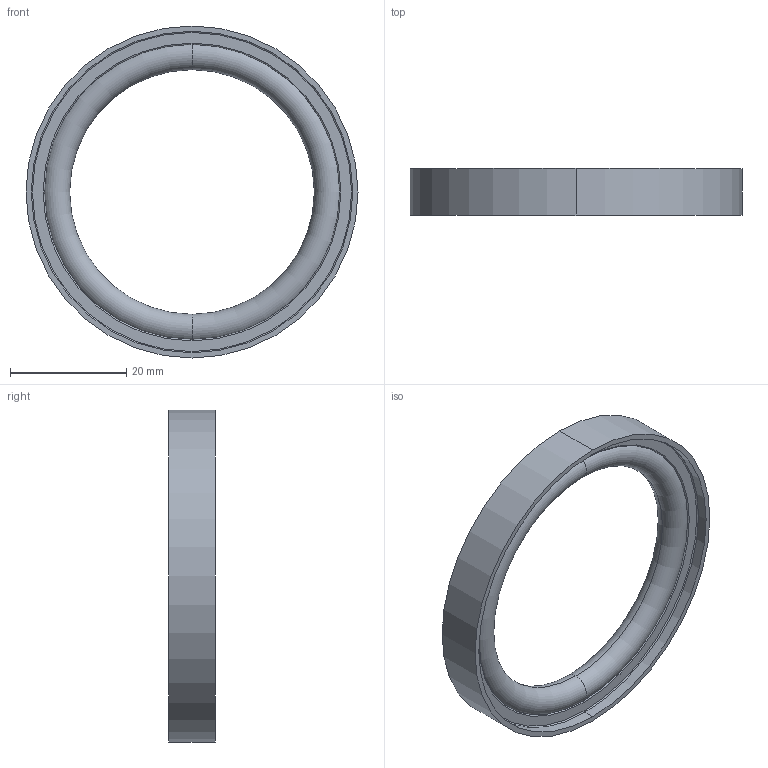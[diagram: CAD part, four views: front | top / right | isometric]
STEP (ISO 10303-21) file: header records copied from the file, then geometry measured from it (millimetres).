
FILE_DESCRIPTION (( 'STEP AP214' ), '1' );
FILE_NAME ('W3AZR40.STEP', '2019-11-14T06:15:42', ( '' ), ( '' ), 'SwSTEP 2.0', 'SolidWorks 2018', '' );
FILE_SCHEMA (( 'AUTOMOTIVE_DESIGN' ));
Length unit declared in the file: millimetre
Products named in the file (3): W3ZA40_Ring; W3AZR40
Assembly tree (2 placements, depth 2):
  W3AZR40
    W3AZR40
    W3ZA40_Ring
Bounding box: 57 x 8 x 57 mm (x, y, z)
Volume: 5386 mm3; surface area: 6149.9 mm2
Topology: 2 solids, 2 shells, 28 faces, 56 edges, 32 vertices
Faces by surface type: torus 18, cylinder 6, plane 4
Entity records: 860 total; most frequent: DIRECTION 172, CARTESIAN_POINT 121, ORIENTED_EDGE 112, AXIS2_PLACEMENT_3D 83, EDGE_CURVE 56, CIRCLE 50, EDGE_LOOP 32, VERTEX_POINT 32
